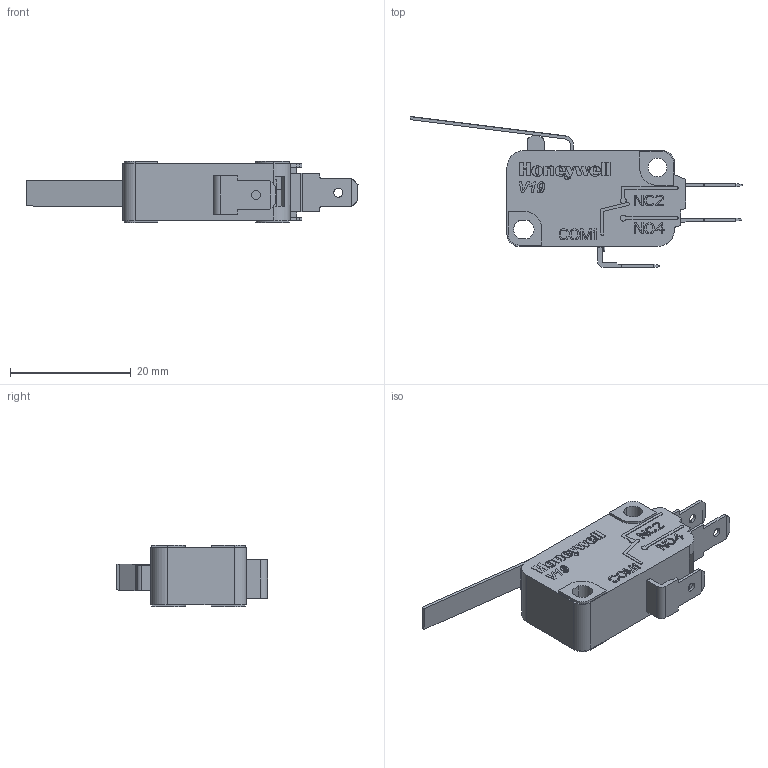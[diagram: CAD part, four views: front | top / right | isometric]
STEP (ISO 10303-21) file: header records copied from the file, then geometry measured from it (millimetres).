
FILE_DESCRIPTION((''),'2;1');
FILE_NAME('V19T16-EZ100B02','2020-06-18T17:36:05',('h252115'),(''),'CREO PARAMETRIC BY PTC INC, 2017380','CREO PARAMETRIC BY PTC INC, 2017380','');
FILE_SCHEMA(('CONFIG_CONTROL_DESIGN'));
Length unit declared in the file: millimetre
Products named in the file (1): V19T16-EZ100B02
Bounding box: 55.1 x 25.07 x 10.2 mm (x, y, z)
Volume: 4217.5 mm3; surface area: 2754.5 mm2
Topology: 1 solids, 1 shells, 694 faces, 1945 edges, 1294 vertices
Faces by surface type: plane 517, extrusion 101, cylinder 66, torus 4, cone 4, bspline 2
Entity records: 24639 total; most frequent: CARTESIAN_POINT 6970, ORIENTED_EDGE 3890, DIRECTION 3154, EDGE_CURVE 1945, VECTOR 1682, LINE 1581, VERTEX_POINT 1294, EDGE_LOOP 745
